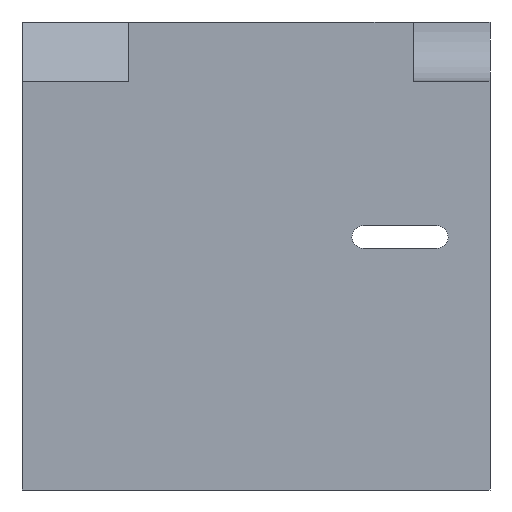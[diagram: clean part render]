
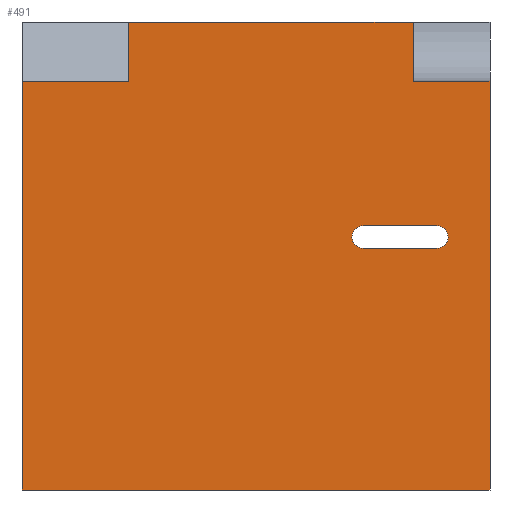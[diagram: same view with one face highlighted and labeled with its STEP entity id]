
A CAD part, front view. The second image highlights one B-rep face of the part: STEP entity #491.
In plain terms, the highlighted planar face has unit normal (0, -1, 0).
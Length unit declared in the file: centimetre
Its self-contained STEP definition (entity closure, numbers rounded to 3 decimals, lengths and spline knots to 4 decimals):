
#9 = CARTESIAN_POINT ( 'NONE',  ( 886.3898, 0., 564.5092 ) ) ;
#43 = EDGE_CURVE ( 'NONE', #1454, #603, #1116, .T. ) ;
#47 = VECTOR ( 'NONE', #676, 100. ) ;
#51 = VERTEX_POINT ( 'NONE', #1260 ) ;
#57 = ORIENTED_EDGE ( 'NONE', *, *, #1465, .F. ) ;
#61 = DIRECTION ( 'NONE',  ( 1., 0., 0. ) ) ;
#63 = DIRECTION ( 'NONE',  ( 0., 1., 0. ) ) ;
#66 = VECTOR ( 'NONE', #1469, 100. ) ;
#77 = DIRECTION ( 'NONE',  ( 0., 0., -1. ) ) ;
#80 = EDGE_LOOP ( 'NONE', ( #446, #992, #1169, #57, #1202, #1540, #1133, #1502 ) ) ;
#92 = ORIENTED_EDGE ( 'NONE', *, *, #447, .T. ) ;
#131 = VECTOR ( 'NONE', #157, 100. ) ;
#157 = DIRECTION ( 'NONE',  ( 0., 0., -1. ) ) ;
#167 = EDGE_CURVE ( 'NONE', #1176, #51, #1157, .T. ) ;
#180 = EDGE_CURVE ( 'NONE', #286, #1037, #1506, .T. ) ;
#182 = DIRECTION ( 'NONE',  ( 0., 1., 0. ) ) ;
#184 = DIRECTION ( 'NONE',  ( 0., 0., -1. ) ) ;
#186 = ORIENTED_EDGE ( 'NONE', *, *, #560, .T. ) ;
#222 = LINE ( 'NONE', #490, #690 ) ;
#228 = CIRCLE ( 'NONE', #641, 24.197 ) ;
#230 = CARTESIAN_POINT ( 'NONE',  ( 835.6606, 0., 873.3385 ) ) ;
#254 = VECTOR ( 'NONE', #1238, 100. ) ;
#268 = VERTEX_POINT ( 'NONE', #230 ) ;
#274 = CARTESIAN_POINT ( 'NONE',  ( 729.282, 0., 516.1152 ) ) ;
#286 = VERTEX_POINT ( 'NONE', #1190 ) ;
#287 = EDGE_CURVE ( 'NONE', #1176, #268, #222, .T. ) ;
#307 = LINE ( 'NONE', #420, #1074 ) ;
#325 = CARTESIAN_POINT ( 'NONE',  ( 227.4315, 0., 1000. ) ) ;
#372 = CARTESIAN_POINT ( 'NONE',  ( 886.3898, 0., 564.5092 ) ) ;
#373 = VERTEX_POINT ( 'NONE', #1005 ) ;
#381 = VERTEX_POINT ( 'NONE', #9 ) ;
#383 = EDGE_LOOP ( 'NONE', ( #1072, #522, #186, #92 ) ) ;
#410 = EDGE_CURVE ( 'NONE', #373, #1454, #752, .T. ) ;
#420 = CARTESIAN_POINT ( 'NONE',  ( 835.6606, 0., 1000. ) ) ;
#436 = CARTESIAN_POINT ( 'NONE',  ( 1000., 0., 1000. ) ) ;
#446 = ORIENTED_EDGE ( 'NONE', *, *, #167, .F. ) ;
#447 = EDGE_CURVE ( 'NONE', #381, #286, #1268, .T. ) ;
#490 = CARTESIAN_POINT ( 'NONE',  ( 835.6606, 0., 873.3385 ) ) ;
#491 = ADVANCED_FACE ( 'NONE', ( #564, #812 ), #1300, .F. ) ;
#509 = VERTEX_POINT ( 'NONE', #325 ) ;
#522 = ORIENTED_EDGE ( 'NONE', *, *, #1017, .T. ) ;
#532 = AXIS2_PLACEMENT_3D ( 'NONE', #1410, #63, #77 ) ;
#542 = EDGE_CURVE ( 'NONE', #708, #268, #307, .T. ) ;
#559 = LINE ( 'NONE', #1179, #746 ) ;
#560 = EDGE_CURVE ( 'NONE', #1213, #381, #793, .T. ) ;
#564 = FACE_BOUND ( 'NONE', #383, .T. ) ;
#603 = VERTEX_POINT ( 'NONE', #1212 ) ;
#641 = AXIS2_PLACEMENT_3D ( 'NONE', #1389, #182, #781 ) ;
#659 = CARTESIAN_POINT ( 'NONE',  ( 729.282, 0., 516.1152 ) ) ;
#670 = CARTESIAN_POINT ( 'NONE',  ( 0., 0., 1000. ) ) ;
#676 = DIRECTION ( 'NONE',  ( -1., 0., 0. ) ) ;
#679 = EDGE_CURVE ( 'NONE', #373, #509, #1075, .T. ) ;
#690 = VECTOR ( 'NONE', #1461, 100. ) ;
#708 = VERTEX_POINT ( 'NONE', #1131 ) ;
#746 = VECTOR ( 'NONE', #61, 100. ) ;
#752 = LINE ( 'NONE', #865, #254 ) ;
#768 = CARTESIAN_POINT ( 'NONE',  ( 0., 0., 1000. ) ) ;
#781 = DIRECTION ( 'NONE',  ( 0., 0., -1. ) ) ;
#793 = LINE ( 'NONE', #372, #1495 ) ;
#812 = FACE_OUTER_BOUND ( 'NONE', #80, .T. ) ;
#840 = DIRECTION ( 'NONE',  ( 1., 0., 0. ) ) ;
#844 = AXIS2_PLACEMENT_3D ( 'NONE', #670, #1055, #1507 ) ;
#865 = CARTESIAN_POINT ( 'NONE',  ( 227.4315, 0., 873.3385 ) ) ;
#908 = DIRECTION ( 'NONE',  ( 0., 0., -1. ) ) ;
#913 = LINE ( 'NONE', #1518, #1429 ) ;
#992 = ORIENTED_EDGE ( 'NONE', *, *, #287, .T. ) ;
#1005 = CARTESIAN_POINT ( 'NONE',  ( 227.4315, 0., 873.3385 ) ) ;
#1017 = EDGE_CURVE ( 'NONE', #1037, #1213, #228, .T. ) ;
#1037 = VERTEX_POINT ( 'NONE', #274 ) ;
#1042 = CARTESIAN_POINT ( 'NONE',  ( 0., 0., 873.3385 ) ) ;
#1055 = DIRECTION ( 'NONE',  ( 0., 1., 0. ) ) ;
#1072 = ORIENTED_EDGE ( 'NONE', *, *, #180, .T. ) ;
#1074 = VECTOR ( 'NONE', #908, 100. ) ;
#1075 = LINE ( 'NONE', #1550, #66 ) ;
#1116 = LINE ( 'NONE', #768, #131 ) ;
#1131 = CARTESIAN_POINT ( 'NONE',  ( 835.6606, 0., 1000. ) ) ;
#1133 = ORIENTED_EDGE ( 'NONE', *, *, #43, .T. ) ;
#1157 = LINE ( 'NONE', #436, #1404 ) ;
#1169 = ORIENTED_EDGE ( 'NONE', *, *, #542, .F. ) ;
#1176 = VERTEX_POINT ( 'NONE', #1195 ) ;
#1179 = CARTESIAN_POINT ( 'NONE',  ( 0., 0., 0. ) ) ;
#1190 = CARTESIAN_POINT ( 'NONE',  ( 886.3898, 0., 516.1152 ) ) ;
#1195 = CARTESIAN_POINT ( 'NONE',  ( 1000., 0., 873.3385 ) ) ;
#1202 = ORIENTED_EDGE ( 'NONE', *, *, #679, .F. ) ;
#1212 = CARTESIAN_POINT ( 'NONE',  ( 0., 0., 0. ) ) ;
#1213 = VERTEX_POINT ( 'NONE', #1230 ) ;
#1230 = CARTESIAN_POINT ( 'NONE',  ( 729.282, 0., 564.5092 ) ) ;
#1238 = DIRECTION ( 'NONE',  ( -1., 0., 0. ) ) ;
#1260 = CARTESIAN_POINT ( 'NONE',  ( 1000., 0., 0. ) ) ;
#1268 = CIRCLE ( 'NONE', #532, 24.197 ) ;
#1300 = PLANE ( 'NONE',  #844 ) ;
#1389 = CARTESIAN_POINT ( 'NONE',  ( 729.282, 0., 540.3122 ) ) ;
#1400 = DIRECTION ( 'NONE',  ( 1., 0., 0. ) ) ;
#1404 = VECTOR ( 'NONE', #184, 100. ) ;
#1410 = CARTESIAN_POINT ( 'NONE',  ( 886.3898, 0., 540.3122 ) ) ;
#1429 = VECTOR ( 'NONE', #1400, 100. ) ;
#1435 = EDGE_CURVE ( 'NONE', #603, #51, #559, .T. ) ;
#1454 = VERTEX_POINT ( 'NONE', #1042 ) ;
#1461 = DIRECTION ( 'NONE',  ( -1., 0., 0. ) ) ;
#1465 = EDGE_CURVE ( 'NONE', #509, #708, #913, .T. ) ;
#1469 = DIRECTION ( 'NONE',  ( 0., 0., 1. ) ) ;
#1495 = VECTOR ( 'NONE', #840, 100. ) ;
#1502 = ORIENTED_EDGE ( 'NONE', *, *, #1435, .T. ) ;
#1506 = LINE ( 'NONE', #659, #47 ) ;
#1507 = DIRECTION ( 'NONE',  ( 0., 0., 1. ) ) ;
#1518 = CARTESIAN_POINT ( 'NONE',  ( 0., 0., 1000. ) ) ;
#1540 = ORIENTED_EDGE ( 'NONE', *, *, #410, .T. ) ;
#1550 = CARTESIAN_POINT ( 'NONE',  ( 227.4315, 0., 873.3385 ) ) ;
